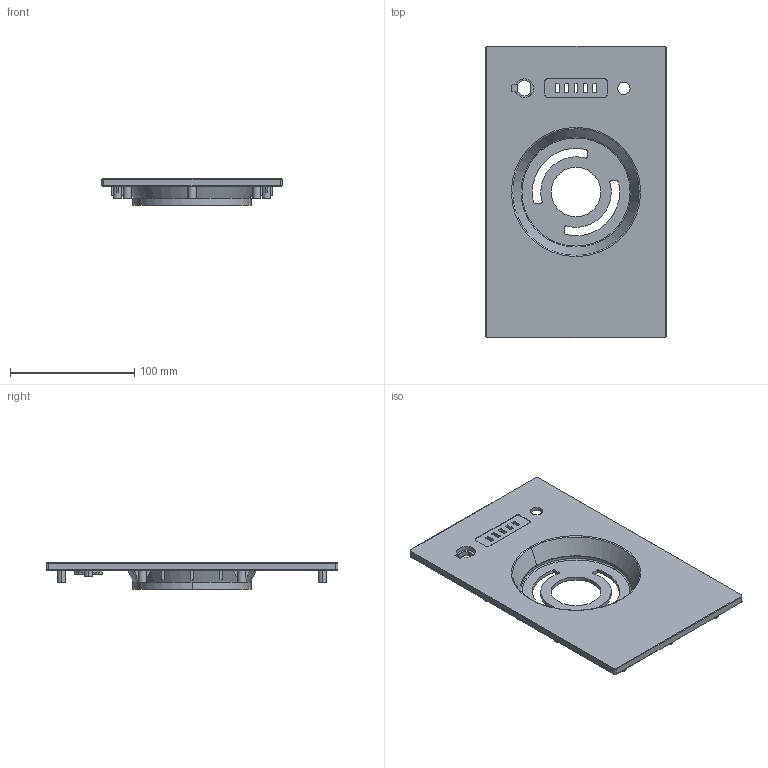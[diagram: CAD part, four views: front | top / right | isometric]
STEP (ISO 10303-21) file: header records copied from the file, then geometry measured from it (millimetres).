
FILE_DESCRIPTION((''),'2;1');
FILE_NAME('K-BOT250703001_14_5_1_1_1_3_1','2025-07-13T10:33:34',('Administrator'),(''),'CREO PARAMETRIC BY PTC INC, 2022073','CREO PARAMETRIC BY PTC INC, 2022073','');
FILE_SCHEMA(('CONFIG_CONTROL_DESIGN'));
Length unit declared in the file: millimetre
Products named in the file (1): K-BOT250703001_14_5_1_1_1_3_1
Bounding box: 145.3 x 234.6 x 21 mm (x, y, z)
Volume: 119630.3 mm3; surface area: 87968.2 mm2
Topology: 1 solids, 1 shells, 393 faces, 1071 edges, 725 vertices
Faces by surface type: plane 202, cylinder 143, cone 34, torus 10, bspline 4
Entity records: 12833 total; most frequent: CARTESIAN_POINT 2328, DIRECTION 2300, ORIENTED_EDGE 2142, EDGE_CURVE 1071, AXIS2_PLACEMENT_3D 848, VERTEX_POINT 725, VECTOR 604, LINE 604
